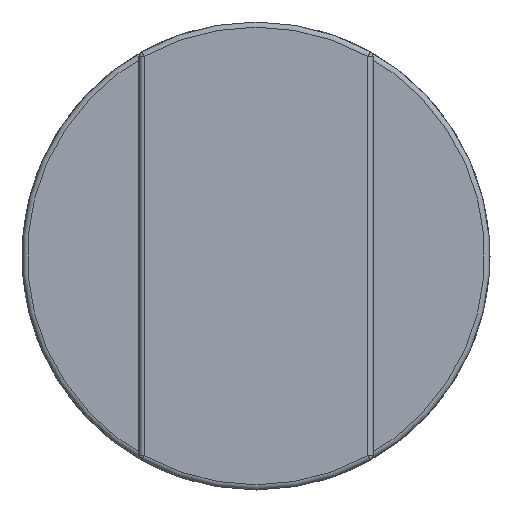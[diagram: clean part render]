
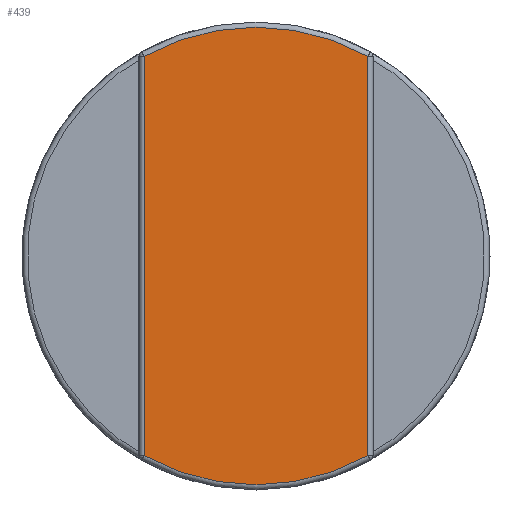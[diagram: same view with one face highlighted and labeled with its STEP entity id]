
A CAD part, front view. The second image highlights one B-rep face of the part: STEP entity #439.
In plain terms, the highlighted planar face has unit normal (0, -1, 0).
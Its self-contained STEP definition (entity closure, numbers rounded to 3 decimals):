
#1 = DIRECTION ( 'NONE',  ( 0., 0., -1. ) ) ;
#43 = ORIENTED_EDGE ( 'NONE', *, *, #1767, .F. ) ;
#94 = DIRECTION ( 'NONE',  ( 0., 1., 0. ) ) ;
#126 = CARTESIAN_POINT ( 'NONE',  ( 4.3, -3., 9.001 ) ) ;
#183 = EDGE_LOOP ( 'NONE', ( #43, #572, #1293, #1210 ) ) ;
#294 = EDGE_CURVE ( 'NONE', #1111, #2264, #1214, .T. ) ;
#303 = DIRECTION ( 'NONE',  ( -1., 0., 0. ) ) ;
#304 = CARTESIAN_POINT ( 'NONE',  ( -4.3, -3., 7.678 ) ) ;
#439 = ADVANCED_FACE ( 'NONE', ( #2163 ), #2230, .F. ) ;
#483 = EDGE_CURVE ( 'NONE', #2228, #1111, #914, .T. ) ;
#572 = ORIENTED_EDGE ( 'NONE', *, *, #483, .T. ) ;
#583 = DIRECTION ( 'NONE',  ( 0., 0., -1. ) ) ;
#608 = VECTOR ( 'NONE', #1, 1000. ) ;
#732 = LINE ( 'NONE', #126, #2499 ) ;
#755 = DIRECTION ( 'NONE',  ( -1., 0., 0. ) ) ;
#874 = EDGE_CURVE ( 'NONE', #2264, #2367, #2714, .T. ) ;
#914 = CIRCLE ( 'NONE', #2574, 8.8 ) ;
#977 = CARTESIAN_POINT ( 'NONE',  ( 0., -3., 0. ) ) ;
#1001 = CARTESIAN_POINT ( 'NONE',  ( -4.3, -3., 9.001 ) ) ;
#1106 = CARTESIAN_POINT ( 'NONE',  ( 4.3, -3., -7.678 ) ) ;
#1111 = VERTEX_POINT ( 'NONE', #304 ) ;
#1210 = ORIENTED_EDGE ( 'NONE', *, *, #874, .T. ) ;
#1214 = LINE ( 'NONE', #2387, #608 ) ;
#1289 = CARTESIAN_POINT ( 'NONE',  ( 4.3, -3., 7.678 ) ) ;
#1293 = ORIENTED_EDGE ( 'NONE', *, *, #294, .T. ) ;
#1464 = DIRECTION ( 'NONE',  ( -1., 0., 0. ) ) ;
#1665 = CARTESIAN_POINT ( 'NONE',  ( 0., -3., 0. ) ) ;
#1767 = EDGE_CURVE ( 'NONE', #2228, #2367, #732, .T. ) ;
#1784 = CARTESIAN_POINT ( 'NONE',  ( -4.3, -3., -7.678 ) ) ;
#2058 = AXIS2_PLACEMENT_3D ( 'NONE', #1665, #2803, #303 ) ;
#2163 = FACE_OUTER_BOUND ( 'NONE', #183, .T. ) ;
#2228 = VERTEX_POINT ( 'NONE', #1289 ) ;
#2230 = PLANE ( 'NONE',  #2433 ) ;
#2264 = VERTEX_POINT ( 'NONE', #1784 ) ;
#2367 = VERTEX_POINT ( 'NONE', #1106 ) ;
#2373 = DIRECTION ( 'NONE',  ( 0., -1., 0. ) ) ;
#2387 = CARTESIAN_POINT ( 'NONE',  ( -4.3, -3., 9.001 ) ) ;
#2433 = AXIS2_PLACEMENT_3D ( 'NONE', #1001, #94, #1464 ) ;
#2499 = VECTOR ( 'NONE', #583, 1000. ) ;
#2574 = AXIS2_PLACEMENT_3D ( 'NONE', #977, #2373, #755 ) ;
#2714 = CIRCLE ( 'NONE', #2058, 8.8 ) ;
#2803 = DIRECTION ( 'NONE',  ( 0., -1., 0. ) ) ;
